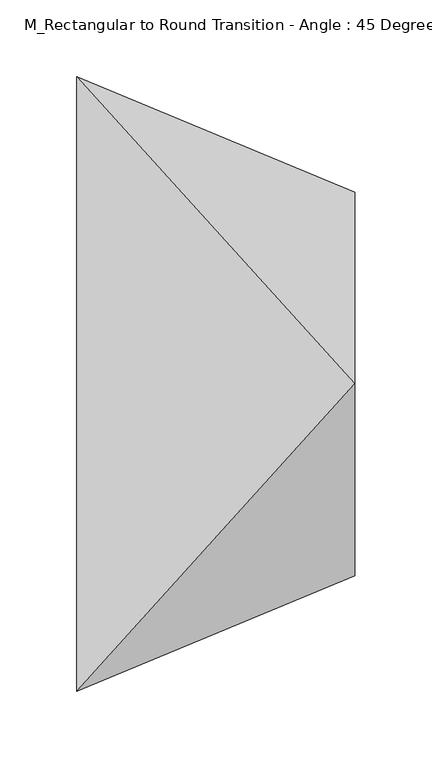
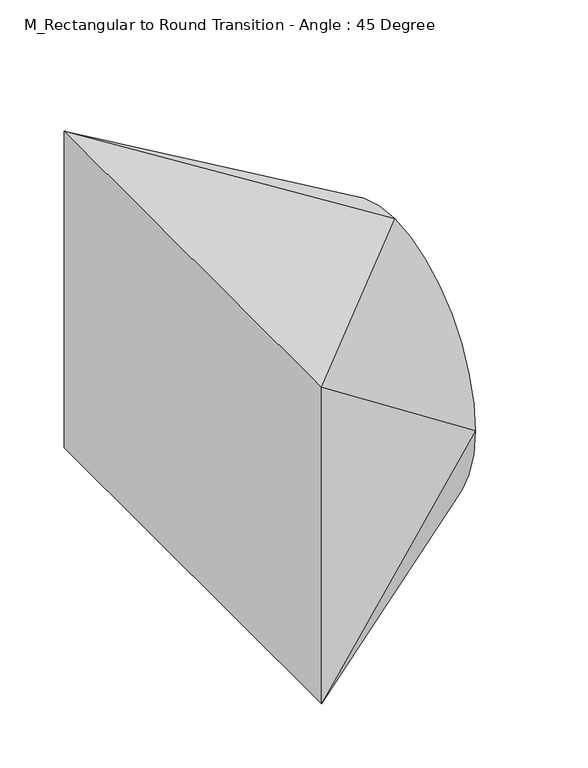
"""IFC4 building model written with IfcOpenShell, lengths in millimetres: duct fitting geometry, M_Rectangular to Round Transition - Angle : 45 Degree."""

from ifc_helpers import new_model, si_unit, frame, origin, place, context, project, spatial, circle_curve, source, transform, mapped, element, save
from ifc_brep_helpers import plane_surface, spline_surface, advanced_brep


def m_rectangular_to_round_transition_angle_45_degree_3d96429c(model_context):
    return source(origin(), model_context, "Body", "AdvancedBrep", [
        advanced_brep(
        [(0.0, -200.0, -150.0), (0.0, -200.0, 150.0), (0.0, 200.0, 150.0), (0.0, 200.0, -150.0), (181.0660172, -125.0, 0.0), (181.0660172, 0.0, -125.0), (181.0660172, 125.0, 0.0), (181.0660172, 0.0, 125.0)],
        [
            (0, 1),
            (1, 2),
            (2, 3),
            (3, 0),
            (4, 5, circle_curve(frame((181.0660172, 0.0, 0.0), z_axis=(1.0, 0.0, 0.0), x_axis=(0.0, -1.0, 0.0)), 125.0)),
            (5, 6, circle_curve(frame((181.0660172, 0.0, 0.0), z_axis=(1.0, 0.0, 0.0), x_axis=(0.0, -1.0, 0.0)), 125.0)),
            (6, 7, circle_curve(frame((181.0660172, 0.0, 0.0), z_axis=(1.0, 0.0, 0.0), x_axis=(0.0, -1.0, 0.0)), 125.0)),
            (7, 4, circle_curve(frame((181.0660172, 0.0, 0.0), z_axis=(1.0, 0.0, 0.0), x_axis=(0.0, -1.0, 0.0)), 125.0)),
            (0, 4),
            (4, 1),
            (7, 1),
            (7, 2),
            (6, 2),
            (6, 3),
            (5, 3),
            (5, 0),
        ],
        [
            plane_surface(frame((0.0, 0.0, 0.0), z_axis=(-1.0, 0.0, 0.0), x_axis=(0.0, 1.0, 0.0))),
            plane_surface(frame((181.0660172, 0.0, 0.0), z_axis=(1.0, 0.0, 0.0), x_axis=(0.0, 1.0, 0.0))),
            plane_surface(frame((181.0660172, -125.0, 0.0), z_axis=(0.3826834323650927, -0.9238795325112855, 0.0), x_axis=(0.0, 0.0, 1.0))),
            spline_surface(2, 1, [[(181.0660172, -125.0, 0.0), (0.0, -200.0, 150.0)], [(181.0660172, -125.0, 125.0), (0.0, -200.0, 150.0)], [(181.0660172, 0.0, 125.0), (0.0, -200.0, 150.0)]], [3, 3], [2, 2], [0.0, 1.0], [0.0, 1.0], weights=[[1.0, 1.0], [0.7071067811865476, 0.7071067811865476], [1.0, 1.0]]),
            plane_surface(frame((181.0660172, 0.0, 125.0), z_axis=(0.13677363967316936, 0.0, 0.990602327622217), x_axis=(0.0, 1.0, 0.0))),
            spline_surface(2, 1, [[(181.0660172, 0.0, 125.0), (0.0, 200.0, 150.0)], [(181.0660172, 125.0, 125.0), (0.0, 200.0, 150.0)], [(181.0660172, 125.0, 0.0), (0.0, 200.0, 150.0)]], [3, 3], [2, 2], [0.0, 1.0], [0.0, 1.0], weights=[[1.0, 1.0], [0.7071067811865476, 0.7071067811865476], [1.0, 1.0]]),
            plane_surface(frame((181.0660172, 125.0, 0.0), z_axis=(0.3826834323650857, 0.9238795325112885, 0.0), x_axis=(0.0, 0.0, -1.0))),
            spline_surface(2, 1, [[(181.0660172, 125.0, 0.0), (0.0, 200.0, -150.0)], [(181.0660172, 125.0, -125.0), (0.0, 200.0, -150.0)], [(181.0660172, 0.0, -125.0), (0.0, 200.0, -150.0)]], [3, 3], [2, 2], [0.0, 1.0], [0.0, 1.0], weights=[[1.0, 1.0], [0.7071067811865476, 0.7071067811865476], [1.0, 1.0]]),
            plane_surface(frame((181.0660172, 0.0, -125.0), z_axis=(0.1367736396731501, 0.0, -0.9906023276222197), x_axis=(0.0, -1.0, 0.0))),
            spline_surface(2, 1, [[(181.0660172, 0.0, -125.0), (0.0, -200.0, -150.0)], [(181.0660172, -125.0, -125.0), (0.0, -200.0, -150.0)], [(181.0660172, -125.0, 0.0), (0.0, -200.0, -150.0)]], [3, 3], [2, 2], [0.0, 1.0], [0.0, 1.0], weights=[[1.0, 1.0], [0.7071067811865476, 0.7071067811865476], [1.0, 1.0]]),
        ],
        [
            (0, [[1, 2, 3, 4]]),
            (1, [[5, 6, 7, 8]]),
            (2, [[-1, 9, 10]]),
            (3, [[-8, 11, -10]]),
            (4, [[-2, -11, 12]]),
            (5, [[-7, 13, -12]]),
            (6, [[-3, -13, 14]]),
            (7, [[-6, 15, -14]]),
            (8, [[-4, -15, 16]]),
            (9, [[-5, -9, -16]]),
        ],
    ),
        advanced_brep(
        [(0.0, -200.0, -150.0), (0.0, -200.0, 150.0), (0.0, 200.0, 150.0), (0.0, 200.0, -150.0), (181.0660172, -125.0, 0.0), (181.0660172, 0.0, -125.0), (181.0660172, 125.0, 0.0), (181.0660172, 0.0, 125.0)],
        [
            (0, 1),
            (1, 2),
            (2, 3),
            (3, 0),
            (4, 5, circle_curve(frame((181.0660172, 0.0, 0.0), z_axis=(1.0, 0.0, 0.0), x_axis=(0.0, -1.0, 0.0)), 125.0)),
            (5, 6, circle_curve(frame((181.0660172, 0.0, 0.0), z_axis=(1.0, 0.0, 0.0), x_axis=(0.0, -1.0, 0.0)), 125.0)),
            (6, 7, circle_curve(frame((181.0660172, 0.0, 0.0), z_axis=(1.0, 0.0, 0.0), x_axis=(0.0, -1.0, 0.0)), 125.0)),
            (7, 4, circle_curve(frame((181.0660172, 0.0, 0.0), z_axis=(1.0, 0.0, 0.0), x_axis=(0.0, -1.0, 0.0)), 125.0)),
            (0, 4),
            (4, 1),
            (7, 1),
            (7, 2),
            (6, 2),
            (6, 3),
            (5, 3),
            (5, 0),
        ],
        [
            plane_surface(frame((0.0, 0.0, 0.0), z_axis=(-1.0, 0.0, 0.0), x_axis=(0.0, 1.0, 0.0))),
            plane_surface(frame((181.0660172, 0.0, 0.0), z_axis=(1.0, 0.0, 0.0), x_axis=(0.0, 1.0, 0.0))),
            plane_surface(frame((181.0660172, -125.0, 0.0), z_axis=(0.3826834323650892, -0.9238795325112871, 0.0), x_axis=(0.0, 0.0, 1.0))),
            spline_surface(2, 1, [[(181.0660172, -125.0, 0.0), (0.0, -200.0, 150.0)], [(181.0660172, -125.0, 125.0), (0.0, -200.0, 150.0)], [(181.0660172, 0.0, 125.0), (0.0, -200.0, 150.0)]], [3, 3], [2, 2], [0.0, 1.0], [0.0, 1.0], weights=[[1.0, 1.0], [0.7071067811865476, 0.7071067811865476], [1.0, 1.0]]),
            plane_surface(frame((181.0660172, 0.0, 125.0), z_axis=(0.13677363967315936, 0.0, 0.9906023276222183), x_axis=(0.0, 1.0, 0.0))),
            spline_surface(2, 1, [[(181.0660172, 0.0, 125.0), (0.0, 200.0, 150.0)], [(181.0660172, 125.0, 125.0), (0.0, 200.0, 150.0)], [(181.0660172, 125.0, 0.0), (0.0, 200.0, 150.0)]], [3, 3], [2, 2], [0.0, 1.0], [0.0, 1.0], weights=[[1.0, 1.0], [0.7071067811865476, 0.7071067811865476], [1.0, 1.0]]),
            plane_surface(frame((181.0660172, 125.0, 0.0), z_axis=(0.38268343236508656, 0.9238795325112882, 0.0), x_axis=(0.0, 0.0, -1.0))),
            spline_surface(2, 1, [[(181.0660172, 125.0, 0.0), (0.0, 200.0, -150.0)], [(181.0660172, 125.0, -125.0), (0.0, 200.0, -150.0)], [(181.0660172, 0.0, -125.0), (0.0, 200.0, -150.0)]], [3, 3], [2, 2], [0.0, 1.0], [0.0, 1.0], weights=[[1.0, 1.0], [0.7071067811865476, 0.7071067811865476], [1.0, 1.0]]),
            plane_surface(frame((181.0660172, 0.0, -125.0), z_axis=(0.13677363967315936, 0.0, -0.9906023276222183), x_axis=(0.0, -1.0, 0.0))),
            spline_surface(2, 1, [[(181.0660172, 0.0, -125.0), (0.0, -200.0, -150.0)], [(181.0660172, -125.0, -125.0), (0.0, -200.0, -150.0)], [(181.0660172, -125.0, 0.0), (0.0, -200.0, -150.0)]], [3, 3], [2, 2], [0.0, 1.0], [0.0, 1.0], weights=[[1.0, 1.0], [0.7071067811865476, 0.7071067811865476], [1.0, 1.0]]),
        ],
        [
            (0, [[1, 2, 3, 4]]),
            (1, [[5, 6, 7, 8]]),
            (2, [[-1, 9, 10]]),
            (3, [[-8, 11, -10]]),
            (4, [[-2, -11, 12]]),
            (5, [[-7, 13, -12]]),
            (6, [[-3, -13, 14]]),
            (7, [[-6, 15, -14]]),
            (8, [[-4, -15, 16]]),
            (9, [[-5, -9, -16]]),
        ],
    ),
        advanced_brep(
        [(181.0660172, 0.0, 125.0), (181.0660172, -125.0, 0.0), (181.0660172, 0.0, -125.0), (181.0660172, 125.0, 0.0), (0.0, -200.0, 150.0), (0.0, 200.0, 150.0), (0.0, 200.0, -150.0), (0.0, -200.0, -150.0)],
        [
            (0, 1, circle_curve(frame((181.0660172, 0.0, 0.0), z_axis=(1.0, 0.0, 0.0), x_axis=(0.0, 1.0, 0.0)), 125.0)),
            (1, 2, circle_curve(frame((181.0660172, 0.0, 0.0), z_axis=(1.0, 0.0, 0.0), x_axis=(0.0, 1.0, 0.0)), 125.0)),
            (2, 3, circle_curve(frame((181.0660172, 0.0, 0.0), z_axis=(1.0, 0.0, 0.0), x_axis=(0.0, 1.0, 0.0)), 125.0)),
            (3, 0, circle_curve(frame((181.0660172, 0.0, 0.0), z_axis=(1.0, 0.0, 0.0), x_axis=(0.0, 1.0, 0.0)), 125.0)),
            (4, 5),
            (5, 6),
            (6, 7),
            (7, 4),
            (0, 4),
            (4, 1),
            (7, 1),
            (7, 2),
            (6, 2),
            (6, 3),
            (5, 3),
            (5, 0),
        ],
        [
            plane_surface(frame((181.0660172, 0.0, 0.0), z_axis=(1.0, 0.0, 0.0), x_axis=(0.0, 0.0, -1.0))),
            plane_surface(frame((0.0, 0.0, 0.0), z_axis=(-1.0, 0.0, 0.0), x_axis=(0.0, 0.0, -1.0))),
            spline_surface(2, 1, [[(0.0, -200.0, 150.0), (181.0660172, 0.0, 125.0)], [(0.0, -200.0, 150.0), (181.0660172, -125.0, 125.0)], [(0.0, -200.0, 150.0), (181.0660172, -125.0, 0.0)]], [3, 3], [2, 2], [0.0, 1.0], [0.0, 1.0], weights=[[1.0, 1.0], [0.7071067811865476, 0.7071067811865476], [1.0, 1.0]]),
            plane_surface(frame((0.0, -200.0, 0.0), z_axis=(0.3826834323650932, -0.9238795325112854, 0.0), x_axis=(0.0, 0.0, -1.0))),
            spline_surface(2, 1, [[(0.0, -200.0, -150.0), (181.0660172, -125.0, 0.0)], [(0.0, -200.0, -150.0), (181.0660172, -125.0, -125.0)], [(0.0, -200.0, -150.0), (181.0660172, 0.0, -125.0)]], [3, 3], [2, 2], [0.0, 1.0], [0.0, 1.0], weights=[[1.0, 1.0], [0.7071067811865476, 0.7071067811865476], [1.0, 1.0]]),
            plane_surface(frame((0.0, 0.0, -150.0), z_axis=(0.13677363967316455, 0.0, -0.9906023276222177), x_axis=(0.0, 1.0, 0.0))),
            spline_surface(2, 1, [[(0.0, 200.0, -150.0), (181.0660172, 0.0, -125.0)], [(0.0, 200.0, -150.0), (181.0660172, 125.0, -125.0)], [(0.0, 200.0, -150.0), (181.0660172, 125.0, 0.0)]], [3, 3], [2, 2], [0.0, 1.0], [0.0, 1.0], weights=[[1.0, 1.0], [0.7071067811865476, 0.7071067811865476], [1.0, 1.0]]),
            plane_surface(frame((0.0, 200.0, 0.0), z_axis=(0.38268343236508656, 0.9238795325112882, 0.0), x_axis=(0.0, 0.0, 1.0))),
            spline_surface(2, 1, [[(0.0, 200.0, 150.0), (181.0660172, 125.0, 0.0)], [(0.0, 200.0, 150.0), (181.0660172, 125.0, 125.0)], [(0.0, 200.0, 150.0), (181.0660172, 0.0, 125.0)]], [3, 3], [2, 2], [0.0, 1.0], [0.0, 1.0], weights=[[1.0, 1.0], [0.7071067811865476, 0.7071067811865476], [1.0, 1.0]]),
            plane_surface(frame((0.0, 0.0, 150.0), z_axis=(0.13677363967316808, 0.0, 0.9906023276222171), x_axis=(0.0, -1.0, 0.0))),
        ],
        [
            (0, [[1, 2, 3, 4]]),
            (1, [[5, 6, 7, 8]]),
            (2, [[-1, 9, 10]]),
            (3, [[-8, 11, -10]]),
            (4, [[-2, -11, 12]]),
            (5, [[-7, 13, -12]]),
            (6, [[-3, -13, 14]]),
            (7, [[-6, 15, -14]]),
            (8, [[-4, -15, 16]]),
            (9, [[-5, -9, -16]]),
        ],
    ),
    ])


if __name__ == "__main__":
    model = new_model("IFC4")
    model_context = context("Model", 3, world=origin())
    ifc_project = project(units=[si_unit("LENGTHUNIT", "METRE", prefix="MILLI")], contexts=[model_context])
    site = spatial("IfcSite", under=ifc_project)
    building = spatial("IfcBuilding", under=site)
    placement = place(None, origin())
    m_rectangular_to_round_transition_angle_45_degree_shape = m_rectangular_to_round_transition_angle_45_degree_3d96429c(model_context)
    element("IfcDuctFitting", 1, ObjectType="M_Rectangular to Round Transition - Angle : 45 Degree", at=placement, inside=building, context=model_context, shape_type="MappedRepresentation", body=[
        mapped(m_rectangular_to_round_transition_angle_45_degree_shape, transform((0.0, 0.0, 0.0), x_axis=(1.0, 0.0, 0.0), y_axis=(0.0, 1.0, 0.0), z_axis=(0.0, 0.0, 1.0))),
    ])
    save(model, "model.ifc")
